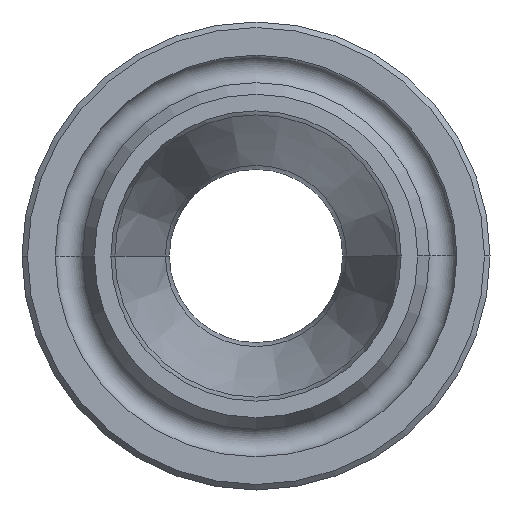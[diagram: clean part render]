
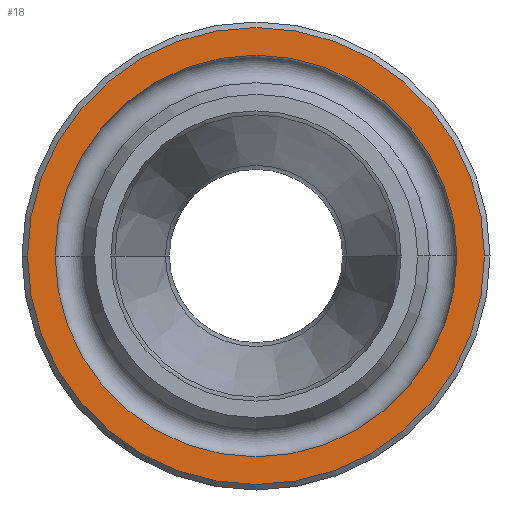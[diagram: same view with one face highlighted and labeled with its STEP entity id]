
A CAD part, left-side view. The second image highlights one B-rep face of the part: STEP entity #18.
In plain terms, the highlighted planar face has unit normal (-1, 0, 0).
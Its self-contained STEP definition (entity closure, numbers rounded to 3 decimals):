
#1 = AXIS2_PLACEMENT_3D ( 'NONE', #773, #69, #588 ) ;
#18 = ADVANCED_FACE ( 'NONE', ( #39, #127 ), #769, .T. ) ;
#21 = EDGE_CURVE ( 'NONE', #707, #71, #809, .T. ) ;
#32 = DIRECTION ( 'NONE',  ( 0., 1., 0. ) ) ;
#39 = FACE_BOUND ( 'NONE', #66, .T. ) ;
#66 = EDGE_LOOP ( 'NONE', ( #977, #962 ) ) ;
#67 = CIRCLE ( 'NONE', #839, 12.4 ) ;
#69 = DIRECTION ( 'NONE',  ( -1., 0., 0. ) ) ;
#71 = VERTEX_POINT ( 'NONE', #1005 ) ;
#127 = FACE_OUTER_BOUND ( 'NONE', #193, .T. ) ;
#153 = CIRCLE ( 'NONE', #800, 12.4 ) ;
#193 = EDGE_LOOP ( 'NONE', ( #928, #941 ) ) ;
#353 = CARTESIAN_POINT ( 'NONE',  ( -66.675, 0., 0. ) ) ;
#379 = AXIS2_PLACEMENT_3D ( 'NONE', #765, #991, #32 ) ;
#399 = CARTESIAN_POINT ( 'NONE',  ( -66.675, 0., 0. ) ) ;
#405 = DIRECTION ( 'NONE',  ( 1., 0., 0. ) ) ;
#449 = DIRECTION ( 'NONE',  ( 0., 1., 0. ) ) ;
#452 = EDGE_CURVE ( 'NONE', #555, #954, #153, .T. ) ;
#470 = EDGE_CURVE ( 'NONE', #954, #555, #67, .T. ) ;
#512 = DIRECTION ( 'NONE',  ( 1., 0., 0. ) ) ;
#555 = VERTEX_POINT ( 'NONE', #752 ) ;
#588 = DIRECTION ( 'NONE',  ( 0., -1., 0. ) ) ;
#681 = CARTESIAN_POINT ( 'NONE',  ( -66.675, 12.4, 0. ) ) ;
#691 = EDGE_CURVE ( 'NONE', #71, #707, #788, .T. ) ;
#707 = VERTEX_POINT ( 'NONE', #825 ) ;
#739 = DIRECTION ( 'NONE',  ( 0., 1., 0. ) ) ;
#752 = CARTESIAN_POINT ( 'NONE',  ( -66.675, -12.4, 0. ) ) ;
#765 = CARTESIAN_POINT ( 'NONE',  ( -66.675, 0., 0. ) ) ;
#769 = PLANE ( 'NONE',  #1 ) ;
#773 = CARTESIAN_POINT ( 'NONE',  ( -66.675, 10.9, 0. ) ) ;
#788 = CIRCLE ( 'NONE', #379, 10.9 ) ;
#800 = AXIS2_PLACEMENT_3D ( 'NONE', #827, #808, #739 ) ;
#808 = DIRECTION ( 'NONE',  ( 1., 0., 0. ) ) ;
#809 = CIRCLE ( 'NONE', #951, 10.9 ) ;
#825 = CARTESIAN_POINT ( 'NONE',  ( -66.675, -10.9, 0. ) ) ;
#827 = CARTESIAN_POINT ( 'NONE',  ( -66.675, 0., 0. ) ) ;
#839 = AXIS2_PLACEMENT_3D ( 'NONE', #399, #405, #449 ) ;
#923 = DIRECTION ( 'NONE',  ( 0., 1., 0. ) ) ;
#928 = ORIENTED_EDGE ( 'NONE', *, *, #470, .F. ) ;
#941 = ORIENTED_EDGE ( 'NONE', *, *, #452, .F. ) ;
#951 = AXIS2_PLACEMENT_3D ( 'NONE', #353, #512, #923 ) ;
#954 = VERTEX_POINT ( 'NONE', #681 ) ;
#962 = ORIENTED_EDGE ( 'NONE', *, *, #21, .T. ) ;
#977 = ORIENTED_EDGE ( 'NONE', *, *, #691, .T. ) ;
#991 = DIRECTION ( 'NONE',  ( 1., 0., 0. ) ) ;
#1005 = CARTESIAN_POINT ( 'NONE',  ( -66.675, 10.9, 0. ) ) ;
